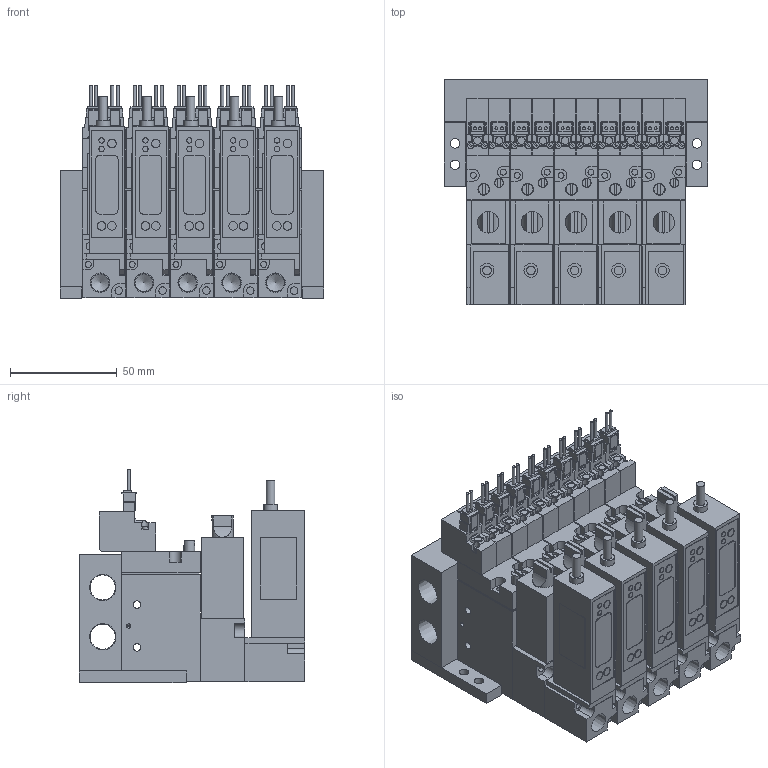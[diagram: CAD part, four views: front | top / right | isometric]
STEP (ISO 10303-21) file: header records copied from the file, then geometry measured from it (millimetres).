
FILE_DESCRIPTION(('STEP AP203'),'1');
FILE_NAME('BMPV32M2NV(R)G25BL505.stp','2025-06-17T01:08:05',(' '),(' '),'Spatial InterOp 3D',' ',' ');
FILE_SCHEMA(('CONFIG_CONTROL_DESIGN'));
Length unit declared in the file: millimetre
Products named in the file (64): BMPV32M2NV(R)G25BL505; Pressure sensor VGL; ___-3(Rc); Filter Assy; __; _____; ___ ___; MB BRACKET; MB05; ___; upper plate-A; ______; ____; VACUUM VALVE FUNCTION MPV42-A
Assembly tree (63 placements, depth 2):
  BMPV32M2NV(R)G25BL505
    Pressure sensor VGL
    ___-3(Rc)
    Filter Assy
    __
    _____
    ___ ___
    Pressure sensor VGL
    ___-3(Rc)
    Filter Assy
    __
    _____
    ___ ___
    Pressure sensor VGL
    ___-3(Rc)
    Filter Assy
    __
    _____
    ___ ___
    Pressure sensor VGL
    ___-3(Rc)
    Filter Assy
    __
    _____
    ___ ___
    MB BRACKET
    MB BRACKET
    MB05
    Pressure sensor VGL
    ___-3(Rc)
    Filter Assy
    __
    _____
    ___ ___
    ___
    upper plate-A
    ______
    ____
    VACUUM VALVE FUNCTION MPV42-A
    VACUUM VALVE FUNCTION MPV42-A
    ___
    upper plate-A
    ______
    ____
    VACUUM VALVE FUNCTION MPV42-A
    VACUUM VALVE FUNCTION MPV42-A
    ___
    upper plate-A
    ______
    ____
    VACUUM VALVE FUNCTION MPV42-A
    VACUUM VALVE FUNCTION MPV42-A
    ___
    upper plate-A
    ______
    ____
    VACUUM VALVE FUNCTION MPV42-A
    VACUUM VALVE FUNCTION MPV42-A
    ___
    upper plate-A
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Bounding box: 123 x 105.5 x 99.75 mm (x, y, z)
Volume: 662507.1 mm3; surface area: 216050.3 mm2
Topology: 63 solids, 63 shells, 1917 faces, 4975 edges, 3319 vertices
Faces by surface type: plane 1526, cylinder 348, cone 43
Full cylindrical faces by diameter (mm): 1.4 x20, 1.8 x10, 2 x10, 2.5 x24, 2.8 x20, 3 x20, 3.5 x54, 4 x25, 4.2 x5, 4.5 x4, 5 x5, 5.5 x5, 6.5 x11, 8.2 x5, 8.759 x5, 11.776 x2
Entity records: 59645 total; most frequent: CARTESIAN_POINT 10148, DIRECTION 9395, ORIENTED_EDGE 9146, EDGE_CURVE 4573, LINE 3673, VECTOR 3673, VERTEX_POINT 3224, AXIS2_PLACEMENT_3D 2861
